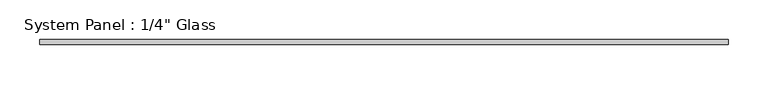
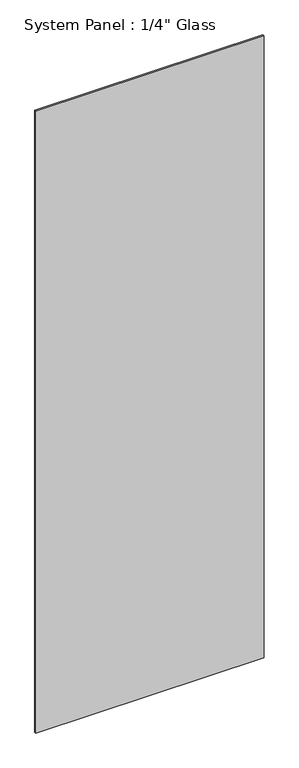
"""IFC4 building model written with IfcOpenShell, lengths in millimetres: plate geometry."""

from ifc_helpers import new_model, si_unit, origin, origin_with_axes, place, context, project, spatial, polyline, outline, extrude, source, transform, mapped, element, save


def plate_e3fa2cc7(model_context):
    return source(origin(), model_context, "Body", "SweptSolid", [
        extrude(outline(polyline([(432.2124977, -3.175), (-432.2124977, -3.175), (-432.2124977, 3.175), (432.2124977, 3.175), (432.2124977, -3.175)])), origin_with_axes(), (0.0, 0.0, 1.0), 2489.2),
    ])


if __name__ == "__main__":
    model = new_model("IFC4")
    model_context = context("Model", 3, world=origin())
    ifc_project = project(units=[si_unit("LENGTHUNIT", "METRE", prefix="MILLI")], contexts=[model_context])
    site = spatial("IfcSite", under=ifc_project)
    building = spatial("IfcBuilding", under=site)
    placement = place(None, origin())
    plate_shape = plate_e3fa2cc7(model_context)
    element("IfcPlate", 1, ObjectType="System Panel : 1/4\" Glass", at=placement, inside=building, context=model_context, shape_type="MappedRepresentation", body=[
        mapped(plate_shape, transform((0.0, 0.0, 0.0), x_axis=(1.0, 0.0, 0.0), y_axis=(0.0, 1.0, 0.0), z_axis=(0.0, 0.0, 1.0))),
    ])
    save(model, "model.ifc")
